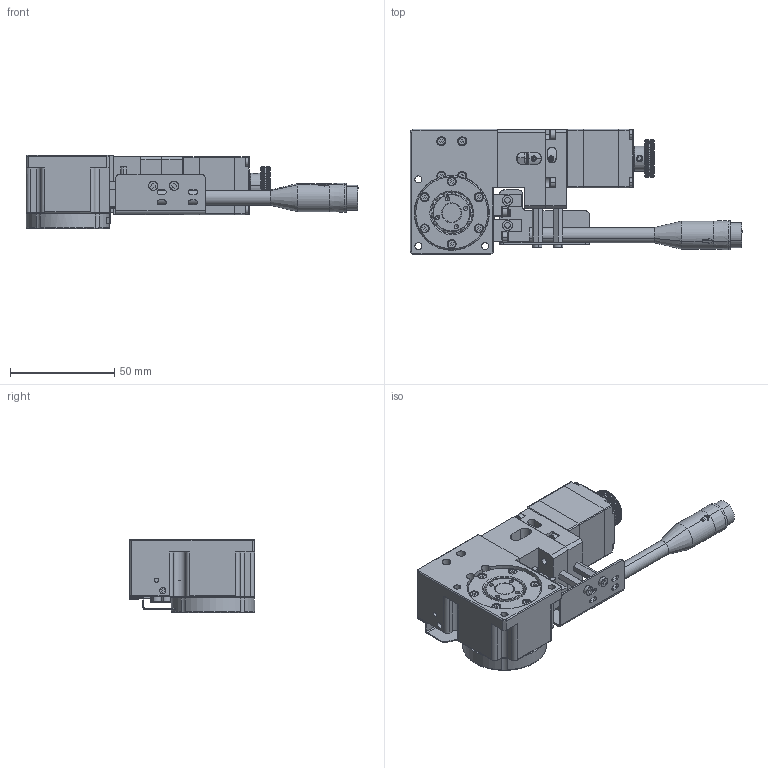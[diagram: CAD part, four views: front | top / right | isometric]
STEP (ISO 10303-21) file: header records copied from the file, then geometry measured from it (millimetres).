
FILE_DESCRIPTION (( 'STEP AP214' ), '1' );
FILE_NAME ('TRA4017-L1-M28.STEP', '2025-01-03T08:07:02', ( '' ), ( '' ), 'SwSTEP 2.0', 'SolidWorks 2020', '' );
FILE_SCHEMA (( 'AUTOMOTIVE_DESIGN' ));
Length unit declared in the file: millimetre
Products named in the file (1): TRA4017-L1-M28
Bounding box: 159.08 x 60 x 35 mm (x, y, z)
Volume: 121910.1 mm3; surface area: 79237.3 mm2
Topology: 138 solids, 138 shells, 3475 faces, 9001 edges, 5656 vertices
Faces by surface type: plane 1546, cylinder 937, cone 390, torus 302, bspline 164, sphere 136
Entity records: 159948 total; most frequent: CARTESIAN_POINT 37680, ORIENTED_EDGE 17126, DIRECTION 16904, EDGE_CURVE 8563, AXIS2_PLACEMENT_3D 6230, VERTEX_POINT 5508, VECTOR 4444, LINE 4444
